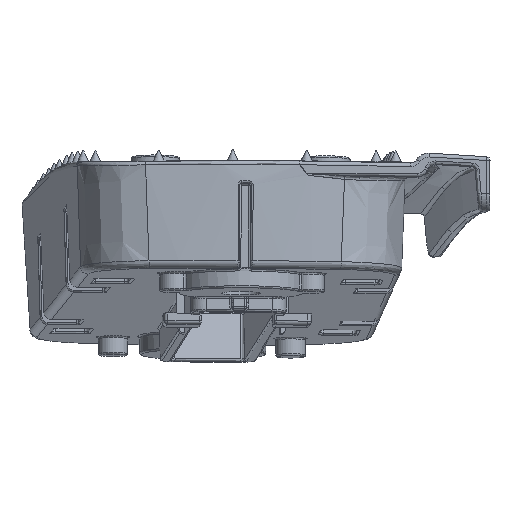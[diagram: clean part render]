
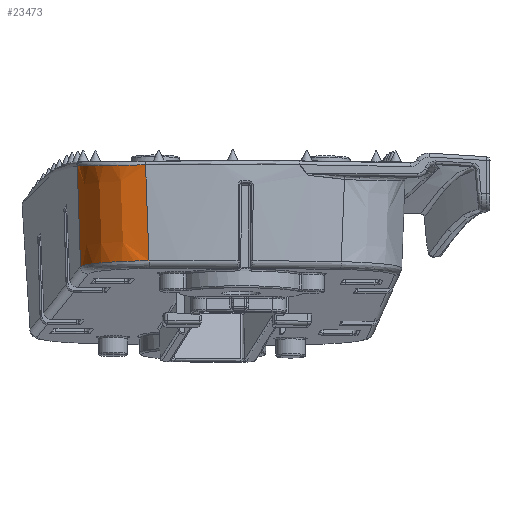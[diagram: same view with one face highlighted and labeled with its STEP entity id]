
A CAD part, top view. The second image highlights one B-rep face of the part: STEP entity #23473.
In plain terms, the highlighted free-form (B-spline) face has degree [5, 5] with [6, 9] control points.
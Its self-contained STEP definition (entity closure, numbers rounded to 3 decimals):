
#20702=CARTESIAN_POINT('Vertex',(137.62,-448.446,1045.014)) ;
#20706=CARTESIAN_POINT('Control Point',(137.62,-448.446,1045.014)) ;
#20707=CARTESIAN_POINT('Control Point',(137.775,-452.749,1045.252)) ;
#20708=CARTESIAN_POINT('Control Point',(137.931,-457.052,1045.489)) ;
#20709=CARTESIAN_POINT('Control Point',(138.086,-461.355,1045.727)) ;
#20710=CARTESIAN_POINT('Vertex',(138.086,-461.355,1045.727)) ;
#23379=CARTESIAN_POINT('Control Point',(137.595,-447.74,1044.974)) ;
#23380=CARTESIAN_POINT('Control Point',(136.182,-447.792,1044.864)) ;
#23381=CARTESIAN_POINT('Control Point',(134.788,-447.857,1044.504)) ;
#23382=CARTESIAN_POINT('Control Point',(133.474,-447.934,1043.897)) ;
#23383=CARTESIAN_POINT('Control Point',(131.12,-448.102,1042.245)) ;
#23384=CARTESIAN_POINT('Control Point',(129.479,-448.286,1039.884)) ;
#23385=CARTESIAN_POINT('Control Point',(128.879,-448.378,1038.568)) ;
#23386=CARTESIAN_POINT('Control Point',(128.525,-448.466,1037.174)) ;
#23387=CARTESIAN_POINT('Control Point',(128.423,-448.547,1035.762)) ;
#23388=CARTESIAN_POINT('Control Point',(137.693,-450.463,1045.125)) ;
#23389=CARTESIAN_POINT('Control Point',(136.279,-450.515,1045.016)) ;
#23390=CARTESIAN_POINT('Control Point',(134.884,-450.581,1044.656)) ;
#23391=CARTESIAN_POINT('Control Point',(133.569,-450.657,1044.05)) ;
#23392=CARTESIAN_POINT('Control Point',(131.212,-450.825,1042.398)) ;
#23393=CARTESIAN_POINT('Control Point',(129.569,-451.009,1040.036)) ;
#23394=CARTESIAN_POINT('Control Point',(128.968,-451.101,1038.719)) ;
#23395=CARTESIAN_POINT('Control Point',(128.615,-451.189,1037.325)) ;
#23396=CARTESIAN_POINT('Control Point',(128.512,-451.27,1035.911)) ;
#23397=CARTESIAN_POINT('Control Point',(137.791,-453.186,1045.276)) ;
#23398=CARTESIAN_POINT('Control Point',(136.376,-453.238,1045.168)) ;
#23399=CARTESIAN_POINT('Control Point',(134.98,-453.304,1044.809)) ;
#23400=CARTESIAN_POINT('Control Point',(133.664,-453.38,1044.203)) ;
#23401=CARTESIAN_POINT('Control Point',(131.304,-453.548,1042.552)) ;
#23402=CARTESIAN_POINT('Control Point',(129.659,-453.732,1040.188)) ;
#23403=CARTESIAN_POINT('Control Point',(129.058,-453.824,1038.871)) ;
#23404=CARTESIAN_POINT('Control Point',(128.704,-453.912,1037.476)) ;
#23405=CARTESIAN_POINT('Control Point',(128.601,-453.993,1036.061)) ;
#23406=CARTESIAN_POINT('Control Point',(137.889,-455.909,1045.426)) ;
#23407=CARTESIAN_POINT('Control Point',(136.473,-455.961,1045.319)) ;
#23408=CARTESIAN_POINT('Control Point',(135.076,-456.027,1044.961)) ;
#23409=CARTESIAN_POINT('Control Point',(133.758,-456.103,1044.356)) ;
#23410=CARTESIAN_POINT('Control Point',(131.396,-456.271,1042.705)) ;
#23411=CARTESIAN_POINT('Control Point',(129.75,-456.455,1040.341)) ;
#23412=CARTESIAN_POINT('Control Point',(129.147,-456.547,1039.023)) ;
#23413=CARTESIAN_POINT('Control Point',(128.793,-456.635,1037.626)) ;
#23414=CARTESIAN_POINT('Control Point',(128.69,-456.717,1036.211)) ;
#23415=CARTESIAN_POINT('Control Point',(137.988,-458.632,1045.576)) ;
#23416=CARTESIAN_POINT('Control Point',(136.57,-458.684,1045.471)) ;
#23417=CARTESIAN_POINT('Control Point',(135.172,-458.75,1045.114)) ;
#23418=CARTESIAN_POINT('Control Point',(133.853,-458.826,1044.509)) ;
#23419=CARTESIAN_POINT('Control Point',(131.489,-458.994,1042.858)) ;
#23420=CARTESIAN_POINT('Control Point',(129.84,-459.178,1040.493)) ;
#23421=CARTESIAN_POINT('Control Point',(129.237,-459.27,1039.174)) ;
#23422=CARTESIAN_POINT('Control Point',(128.882,-459.359,1037.777)) ;
#23423=CARTESIAN_POINT('Control Point',(128.779,-459.44,1036.361)) ;
#23424=CARTESIAN_POINT('Control Point',(138.086,-461.355,1045.727)) ;
#23425=CARTESIAN_POINT('Control Point',(136.667,-461.408,1045.622)) ;
#23426=CARTESIAN_POINT('Control Point',(135.268,-461.473,1045.266)) ;
#23427=CARTESIAN_POINT('Control Point',(133.948,-461.549,1044.662)) ;
#23428=CARTESIAN_POINT('Control Point',(131.581,-461.717,1043.011)) ;
#23429=CARTESIAN_POINT('Control Point',(129.93,-461.901,1040.645)) ;
#23430=CARTESIAN_POINT('Control Point',(129.327,-461.993,1039.325)) ;
#23431=CARTESIAN_POINT('Control Point',(128.971,-462.082,1037.927)) ;
#23432=CARTESIAN_POINT('Control Point',(128.868,-462.163,1036.51)) ;
#23434=CARTESIAN_POINT('Control Point',(128.423,-448.547,1035.762)) ;
#23435=CARTESIAN_POINT('Control Point',(128.501,-448.549,1036.809)) ;
#23436=CARTESIAN_POINT('Control Point',(128.716,-448.549,1037.853)) ;
#23437=CARTESIAN_POINT('Control Point',(129.071,-448.547,1038.877)) ;
#23438=CARTESIAN_POINT('Control Point',(129.918,-448.54,1040.545)) ;
#23439=CARTESIAN_POINT('Control Point',(131.177,-448.527,1042.021)) ;
#23440=CARTESIAN_POINT('Control Point',(131.764,-448.521,1042.586)) ;
#23441=CARTESIAN_POINT('Control Point',(133.14,-448.504,1043.658)) ;
#23442=CARTESIAN_POINT('Control Point',(134.776,-448.484,1044.434)) ;
#23443=CARTESIAN_POINT('Control Point',(135.695,-448.472,1044.743)) ;
#23444=CARTESIAN_POINT('Control Point',(136.652,-448.459,1044.937)) ;
#23445=CARTESIAN_POINT('Control Point',(137.62,-448.446,1045.014)) ;
#23446=CARTESIAN_POINT('Vertex',(128.423,-448.547,1035.762)) ;
#23450=CARTESIAN_POINT('Control Point',(128.423,-448.547,1035.762)) ;
#23451=CARTESIAN_POINT('Control Point',(128.512,-451.27,1035.911)) ;
#23452=CARTESIAN_POINT('Control Point',(128.601,-453.993,1036.061)) ;
#23453=CARTESIAN_POINT('Control Point',(128.69,-456.717,1036.211)) ;
#23454=CARTESIAN_POINT('Control Point',(128.779,-459.44,1036.361)) ;
#23455=CARTESIAN_POINT('Control Point',(128.868,-462.163,1036.51)) ;
#23456=CARTESIAN_POINT('Vertex',(128.868,-462.163,1036.51)) ;
#23460=CARTESIAN_POINT('Control Point',(128.868,-462.163,1036.51)) ;
#23461=CARTESIAN_POINT('Control Point',(129.072,-461.924,1039.338)) ;
#23462=CARTESIAN_POINT('Control Point',(130.282,-461.687,1042.097)) ;
#23463=CARTESIAN_POINT('Control Point',(132.484,-461.494,1044.298)) ;
#23464=CARTESIAN_POINT('Control Point',(135.248,-461.383,1045.514)) ;
#23465=CARTESIAN_POINT('Control Point',(138.086,-461.355,1045.727)) ;
#23468=ORIENTED_EDGE('',*,*,#23448,.F.) ;
#23469=ORIENTED_EDGE('',*,*,#23458,.T.) ;
#23470=ORIENTED_EDGE('',*,*,#23466,.T.) ;
#23471=ORIENTED_EDGE('',*,*,#20712,.F.) ;
#23473=ADVANCED_FACE('\X2\96F64EF651E04F554F53\X0\',(#23472),#23378,.F.) ;
#20705=B_SPLINE_CURVE_WITH_KNOTS('',3,(#20706,#20707,#20708,#20709),.UNSPECIFIED.,.F.,.U.,(4,4),(7.521,25.817),.UNSPECIFIED.) ;
#23433=B_SPLINE_CURVE_WITH_KNOTS('',5,(#23434,#23435,#23436,#23437,#23438,#23439,#23440,#23441,#23442,#23443,#23444,#23445),.UNSPECIFIED.,.F.,.U.,(6,3,3,6),(31.783,39.916,45.58,51.823),.UNSPECIFIED.) ;
#23449=B_SPLINE_CURVE_WITH_KNOTS('',5,(#23450,#23451,#23452,#23453,#23454,#23455),.UNSPECIFIED.,.F.,.U.,(6,6),(6.52,25.817),.UNSPECIFIED.) ;
#23459=B_SPLINE_CURVE_WITH_KNOTS('',5,(#23460,#23461,#23462,#23463,#23464,#23465),.UNSPECIFIED.,.F.,.U.,(6,6),(3.254,19.508),.UNSPECIFIED.) ;
#23378=B_SPLINE_SURFACE_WITH_KNOTS('',5,5,((#23379,#23380,#23381,#23382,#23383,#23384,#23385,#23386,#23387),(#23388,#23389,#23390,#23391,#23392,#23393,#23394,#23395,#23396),(#23397,#23398,#23399,#23400,#23401,#23402,#23403,#23404,#23405),(#23406,#23407,#23408,#23409,#23410,#23411,#23412,#23413,#23414),(#23415,#23416,#23417,#23418,#23419,#23420,#23421,#23422,#23423),(#23424,#23425,#23426,#23427,#23428,#23429,#23430,#23431,#23432)),.UNSPECIFIED.,.F.,.F.,.U.,(6,6),(6,3,6),(6.52,25.817),(0.,5.,10.),.UNSPECIFIED.) ;
#20712=EDGE_CURVE('',#20703,#20711,#20705,.T.) ;
#23448=EDGE_CURVE('',#23447,#20703,#23433,.T.) ;
#23458=EDGE_CURVE('',#23447,#23457,#23449,.T.) ;
#23466=EDGE_CURVE('',#23457,#20711,#23459,.T.) ;
#23467=EDGE_LOOP('',(#23468,#23469,#23470,#23471)) ;
#23472=FACE_OUTER_BOUND('',#23467,.T.) ;
#20703=VERTEX_POINT('',#20702) ;
#20711=VERTEX_POINT('',#20710) ;
#23447=VERTEX_POINT('',#23446) ;
#23457=VERTEX_POINT('',#23456) ;
